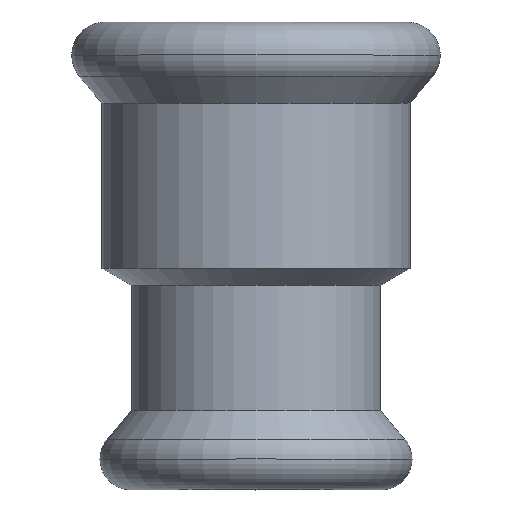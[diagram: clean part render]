
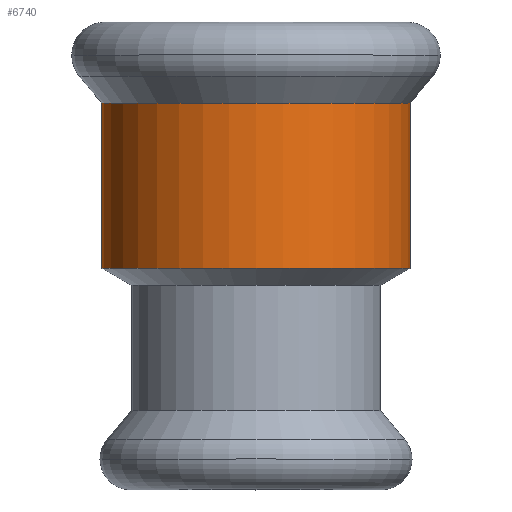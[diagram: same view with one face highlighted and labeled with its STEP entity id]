
A CAD part, top view. The second image highlights one B-rep face of the part: STEP entity #6740.
In plain terms, the highlighted cylindrical face has radius 15.65 mm (diameter 31.3 mm), a partial arc.
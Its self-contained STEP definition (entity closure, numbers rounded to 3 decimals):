
#540=CARTESIAN_POINT('',(-388.656,59.438,0.));
#550=VERTEX_POINT('',#540);
#730=CARTESIAN_POINT('',(-419.956,59.438,
0.));
#740=VERTEX_POINT('',#730);
#770=CARTESIAN_POINT('',(-404.306,59.438,0.));
#780=DIRECTION('',(0.,1.,0.));
#790=DIRECTION('',(-1.,0.,0.));
#800=AXIS2_PLACEMENT_3D('',#770,#780,#790);
#810=CIRCLE('',#800,15.65);
#870=CARTESIAN_POINT('',(-404.306,51.632,0.));
#880=DIRECTION('',(0.,-1.,0.));
#890=DIRECTION('',(-1.,0.,0.));
#900=AXIS2_PLACEMENT_3D('',#870,#880,#890);
#910=CYLINDRICAL_SURFACE('',#900,15.65);
#920=CARTESIAN_POINT('',(-388.656,51.632,
0.));
#930=DIRECTION('',(0.,-1.,0.));
#940=VECTOR('',#930,1.);
#950=LINE('',#920,#940);
#960=CARTESIAN_POINT('',(-388.656,42.673,
0.));
#970=VERTEX_POINT('',#960);
#980=EDGE_CURVE('',#550,#970,#950,.T.);
#1010=CARTESIAN_POINT('',(-419.956,51.632,0.));
#1020=DIRECTION('',(0.,-1.,0.));
#1030=VECTOR('',#1020,1.);
#1040=LINE('',#1010,#1030);
#1050=CARTESIAN_POINT('',(-419.956,42.673,0.));
#1060=VERTEX_POINT('',#1050);
#1070=EDGE_CURVE('',#740,#1060,#1040,.T.);
#1090=CARTESIAN_POINT('',(-404.306,42.673,0.));
#1100=DIRECTION('',(0.,-1.,0.));
#1110=DIRECTION('',(1.,0.,0.));
#1120=AXIS2_PLACEMENT_3D('',#1090,#1100,#1110);
#1130=CIRCLE('',#1120,15.65);
#5200=EDGE_CURVE('',#970,#1060,#1130,.T.);
#6670=EDGE_CURVE('',#740,#550,#810,.T.);
#6680=ORIENTED_EDGE('',*,*,#6670,.F.);
#6690=ORIENTED_EDGE('',*,*,#980,.F.);
#6700=ORIENTED_EDGE('',*,*,#5200,.F.);
#6710=ORIENTED_EDGE('',*,*,#1070,.T.);
#6720=EDGE_LOOP('',(#6710,#6700,#6690,#6680));
#6730=FACE_OUTER_BOUND('',#6720,.T.);
#6740=ADVANCED_FACE('',(#6730),#910,.T.);
